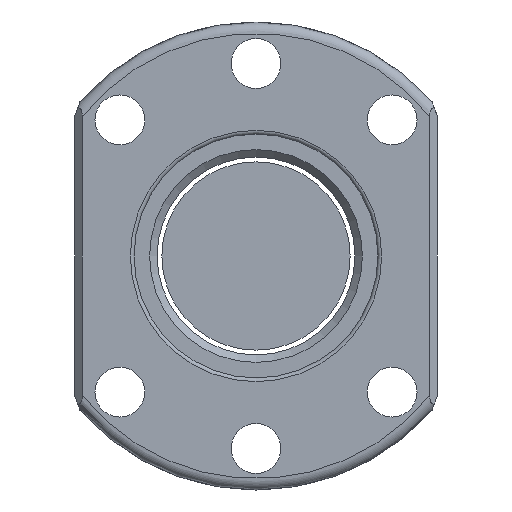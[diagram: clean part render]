
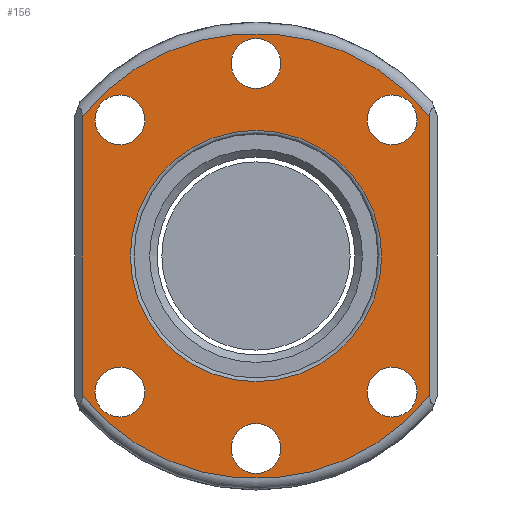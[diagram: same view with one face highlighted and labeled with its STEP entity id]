
A CAD part, front view. The second image highlights one B-rep face of the part: STEP entity #156.
In plain terms, the highlighted planar face has unit normal (0, -1, 0).
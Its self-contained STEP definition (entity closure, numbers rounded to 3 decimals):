
#50=LINE('',#946,#74);
#51=LINE('',#950,#75);
#74=VECTOR('',#774,1.);
#75=VECTOR('',#777,1.);
#120=PLANE('',#674);
#156=ADVANCED_FACE('',(#214,#215,#216,#217,#218,#219,#220,#221),#120,.T.);
#214=FACE_BOUND('',#270,.T.);
#215=FACE_BOUND('',#271,.T.);
#216=FACE_BOUND('',#272,.T.);
#217=FACE_BOUND('',#273,.T.);
#218=FACE_BOUND('',#274,.T.);
#219=FACE_BOUND('',#275,.T.);
#220=FACE_BOUND('',#276,.T.);
#221=FACE_BOUND('',#277,.T.);
#270=EDGE_LOOP('',(#345));
#271=EDGE_LOOP('',(#346));
#272=EDGE_LOOP('',(#347));
#273=EDGE_LOOP('',(#348));
#274=EDGE_LOOP('',(#349));
#275=EDGE_LOOP('',(#350));
#276=EDGE_LOOP('',(#351));
#277=EDGE_LOOP('',(#352,#353,#354,#355));
#345=ORIENTED_EDGE('',*,*,#552,.T.);
#346=ORIENTED_EDGE('',*,*,#553,.F.);
#347=ORIENTED_EDGE('',*,*,#554,.F.);
#348=ORIENTED_EDGE('',*,*,#555,.F.);
#349=ORIENTED_EDGE('',*,*,#556,.T.);
#350=ORIENTED_EDGE('',*,*,#557,.T.);
#351=ORIENTED_EDGE('',*,*,#558,.T.);
#352=ORIENTED_EDGE('',*,*,#559,.T.);
#353=ORIENTED_EDGE('',*,*,#560,.T.);
#354=ORIENTED_EDGE('',*,*,#561,.T.);
#355=ORIENTED_EDGE('',*,*,#562,.T.);
#493=VERTEX_POINT('',#930);
#494=VERTEX_POINT('',#932);
#495=VERTEX_POINT('',#934);
#496=VERTEX_POINT('',#936);
#497=VERTEX_POINT('',#938);
#498=VERTEX_POINT('',#940);
#499=VERTEX_POINT('',#942);
#500=VERTEX_POINT('',#944);
#501=VERTEX_POINT('',#945);
#502=VERTEX_POINT('',#947);
#503=VERTEX_POINT('',#949);
#552=EDGE_CURVE('',#493,#493,#625,.T.);
#553=EDGE_CURVE('',#494,#494,#626,.T.);
#554=EDGE_CURVE('',#495,#495,#627,.T.);
#555=EDGE_CURVE('',#496,#496,#628,.T.);
#556=EDGE_CURVE('',#497,#497,#629,.T.);
#557=EDGE_CURVE('',#498,#498,#630,.T.);
#558=EDGE_CURVE('',#499,#499,#631,.T.);
#559=EDGE_CURVE('',#500,#501,#632,.T.);
#560=EDGE_CURVE('',#501,#502,#50,.T.);
#561=EDGE_CURVE('',#502,#503,#633,.T.);
#562=EDGE_CURVE('',#503,#500,#51,.T.);
#625=CIRCLE('',#665,3.3);
#626=CIRCLE('',#666,3.3);
#627=CIRCLE('',#667,3.3);
#628=CIRCLE('',#668,3.3);
#629=CIRCLE('',#669,3.3);
#630=CIRCLE('',#670,16.65);
#631=CIRCLE('',#671,3.3);
#632=CIRCLE('',#672,29.5);
#633=CIRCLE('',#673,29.5);
#665=AXIS2_PLACEMENT_3D('',#929,#758,#759);
#666=AXIS2_PLACEMENT_3D('',#931,#760,#761);
#667=AXIS2_PLACEMENT_3D('',#933,#762,#763);
#668=AXIS2_PLACEMENT_3D('',#935,#764,#765);
#669=AXIS2_PLACEMENT_3D('',#937,#766,#767);
#670=AXIS2_PLACEMENT_3D('',#939,#768,#769);
#671=AXIS2_PLACEMENT_3D('',#941,#770,#771);
#672=AXIS2_PLACEMENT_3D('',#943,#772,#773);
#673=AXIS2_PLACEMENT_3D('',#948,#775,#776);
#674=AXIS2_PLACEMENT_3D('',#951,#778,#779);
#758=DIRECTION('',(0.,1.,0.));
#759=DIRECTION('',(1.,0.,0.));
#760=DIRECTION('',(0.,-1.,0.));
#761=DIRECTION('',(1.,0.,0.));
#762=DIRECTION('',(0.,-1.,0.));
#763=DIRECTION('',(1.,0.,0.));
#764=DIRECTION('',(0.,-1.,0.));
#765=DIRECTION('',(1.,0.,0.));
#766=DIRECTION('',(0.,1.,0.));
#767=DIRECTION('',(1.,0.,0.));
#768=DIRECTION('',(0.,1.,0.));
#769=DIRECTION('',(0.,0.,-1.));
#770=DIRECTION('',(0.,1.,0.));
#771=DIRECTION('',(1.,0.,0.));
#772=DIRECTION('',(0.,-1.,0.));
#773=DIRECTION('',(0.,0.,-1.));
#774=DIRECTION('',(0.,0.,1.));
#775=DIRECTION('',(0.,-1.,0.));
#776=DIRECTION('',(0.,0.,-1.));
#777=DIRECTION('',(0.,0.,-1.));
#778=DIRECTION('',(0.,-1.,0.));
#779=DIRECTION('',(0.,0.,-1.));
#929=CARTESIAN_POINT('',(0.,0.,-25.5));
#930=CARTESIAN_POINT('',(3.3,0.,-25.5));
#931=CARTESIAN_POINT('',(18.031,0.,18.031));
#932=CARTESIAN_POINT('',(21.331,0.,18.031));
#933=CARTESIAN_POINT('',(0.,0.,25.5));
#934=CARTESIAN_POINT('',(3.3,0.,25.5));
#935=CARTESIAN_POINT('',(-18.031,0.,18.031));
#936=CARTESIAN_POINT('',(-14.731,0.,18.031));
#937=CARTESIAN_POINT('',(18.031,0.,-18.031));
#938=CARTESIAN_POINT('',(21.331,0.,-18.031));
#939=CARTESIAN_POINT('',(0.,0.,0.));
#940=CARTESIAN_POINT('',(0.,0.,-16.65));
#941=CARTESIAN_POINT('',(-18.031,0.,-18.031));
#942=CARTESIAN_POINT('',(-14.731,0.,-18.031));
#943=CARTESIAN_POINT('',(0.,0.,0.));
#944=CARTESIAN_POINT('',(-23.,0.,-18.473));
#945=CARTESIAN_POINT('',(23.,0.,-18.473));
#946=CARTESIAN_POINT('',(23.,0.,17.154));
#947=CARTESIAN_POINT('',(23.,0.,18.473));
#948=CARTESIAN_POINT('',(0.,0.,0.));
#949=CARTESIAN_POINT('',(-23.,0.,18.473));
#950=CARTESIAN_POINT('',(-23.,0.,0.));
#951=CARTESIAN_POINT('',(0.,0.,0.));
